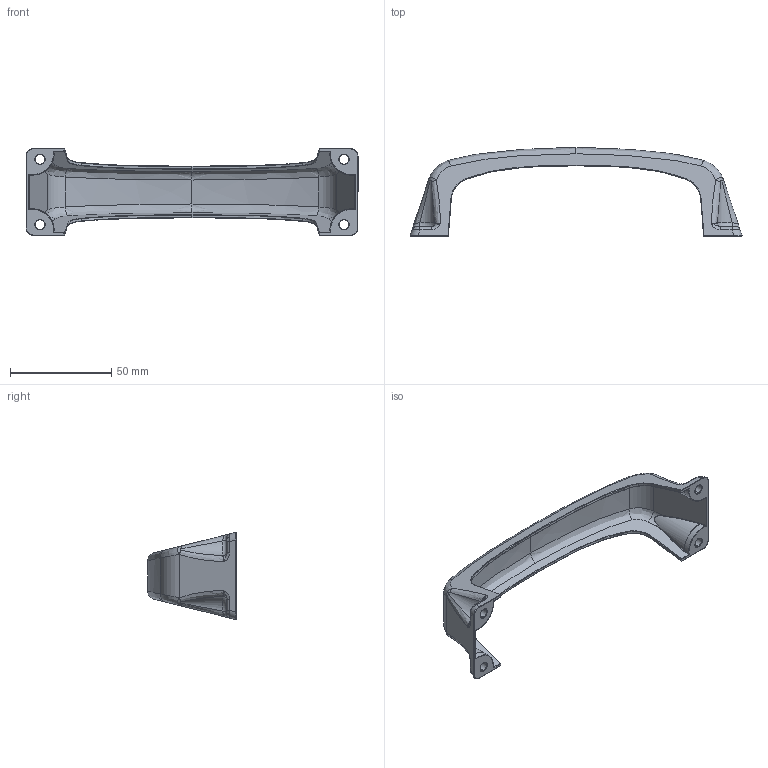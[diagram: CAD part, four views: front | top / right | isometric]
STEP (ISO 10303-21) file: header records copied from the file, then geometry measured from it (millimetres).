
FILE_DESCRIPTION (( 'STEP AP203' ), '1' );
FILE_NAME ('0786.001.STEP', '2018-03-21T01:36:16', ( '' ), ( '' ), 'SwSTEP 2.0', 'SolidWorks 2017', '' );
FILE_SCHEMA (( 'CONFIG_CONTROL_DESIGN' ));
Length unit declared in the file: millimetre
Products named in the file (1): 0786.001
Bounding box: 163.85 x 43.7 x 42.99 mm (x, y, z)
Volume: 15385.7 mm3; surface area: 19096.5 mm2
Topology: 1 solids, 1 shells, 252 faces, 609 edges, 343 vertices
Faces by surface type: bspline 137, cylinder 67, torus 24, plane 18, sphere 6
Entity records: 12187 total; most frequent: CARTESIAN_POINT 7408, ORIENTED_EDGE 1178, DIRECTION 781, EDGE_CURVE 589, VERTEX_POINT 339, AXIS2_PLACEMENT_3D 335, EDGE_LOOP 252, FACE_OUTER_BOUND 248
